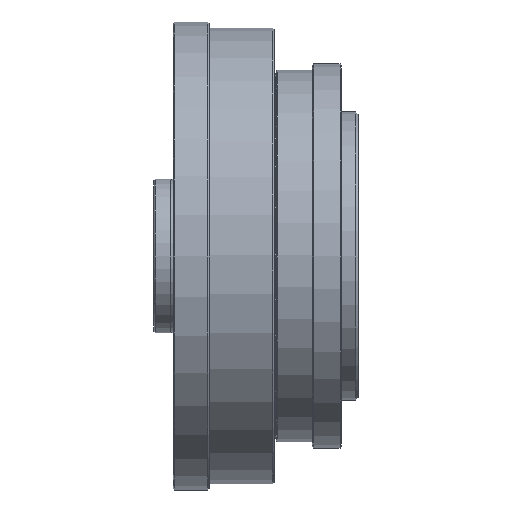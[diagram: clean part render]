
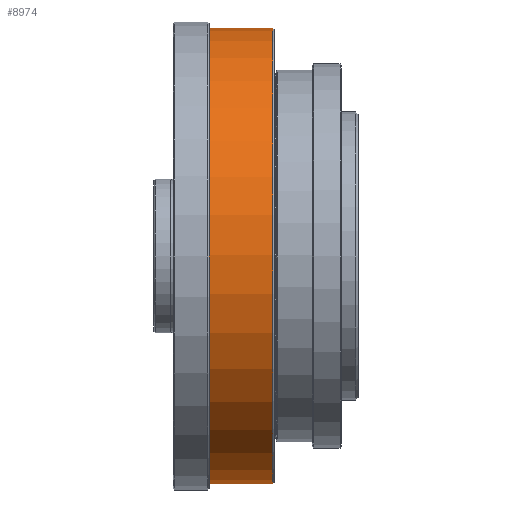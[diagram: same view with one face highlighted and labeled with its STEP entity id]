
A CAD part, front view. The second image highlights one B-rep face of the part: STEP entity #8974.
In plain terms, the highlighted cylindrical face has radius 95 mm (diameter 190 mm), a full revolution.
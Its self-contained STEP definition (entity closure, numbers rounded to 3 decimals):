
#4224 = CARTESIAN_POINT ( 'NONE',  ( -66.5, 0.518, 94.999 ) ) ;
#4710 = EDGE_LOOP ( 'NONE', ( #7390 ) ) ;
#5895 = DIRECTION ( 'NONE',  ( -1., 0., 0. ) ) ;
#6682 = DIRECTION ( 'NONE',  ( 1., 0., 0. ) ) ;
#7346 = FACE_OUTER_BOUND ( 'NONE', #51872, .T. ) ;
#7390 = ORIENTED_EDGE ( 'NONE', *, *, #29678, .T. ) ;
#8974 = ADVANCED_FACE ( 'NONE', ( #30912, #7346 ), #23476, .T. ) ;
#11749 = AXIS2_PLACEMENT_3D ( 'NONE', #38997, #6682, #15382 ) ;
#15382 = DIRECTION ( 'NONE',  ( 0., 0.005, 1. ) ) ;
#15760 = EDGE_CURVE ( 'NONE', #52466, #52466, #25264, .T. ) ;
#20270 = DIRECTION ( 'NONE',  ( 1., 0., 0. ) ) ;
#20526 = DIRECTION ( 'NONE',  ( 0., -0.005, -1. ) ) ;
#23476 = CYLINDRICAL_SURFACE ( 'NONE', #48505, 95. ) ;
#25264 = CIRCLE ( 'NONE', #11749, 95. ) ;
#26941 = AXIS2_PLACEMENT_3D ( 'NONE', #51655, #5895, #30243 ) ;
#26971 = CIRCLE ( 'NONE', #26941, 95. ) ;
#28890 = VERTEX_POINT ( 'NONE', #45096 ) ;
#29678 = EDGE_CURVE ( 'NONE', #28890, #28890, #26971, .T. ) ;
#30243 = DIRECTION ( 'NONE',  ( 0., -0.005, -1. ) ) ;
#30912 = FACE_OUTER_BOUND ( 'NONE', #4710, .T. ) ;
#38997 = CARTESIAN_POINT ( 'NONE',  ( -66.5, 0., 0. ) ) ;
#40722 = CARTESIAN_POINT ( 'NONE',  ( 104.075, 0., 0. ) ) ;
#44608 = ORIENTED_EDGE ( 'NONE', *, *, #15760, .T. ) ;
#45096 = CARTESIAN_POINT ( 'NONE',  ( -35.5, -0.518, -94.999 ) ) ;
#48505 = AXIS2_PLACEMENT_3D ( 'NONE', #40722, #20270, #20526 ) ;
#51655 = CARTESIAN_POINT ( 'NONE',  ( -35.5, 0., 0. ) ) ;
#51872 = EDGE_LOOP ( 'NONE', ( #44608 ) ) ;
#52466 = VERTEX_POINT ( 'NONE', #4224 ) ;
